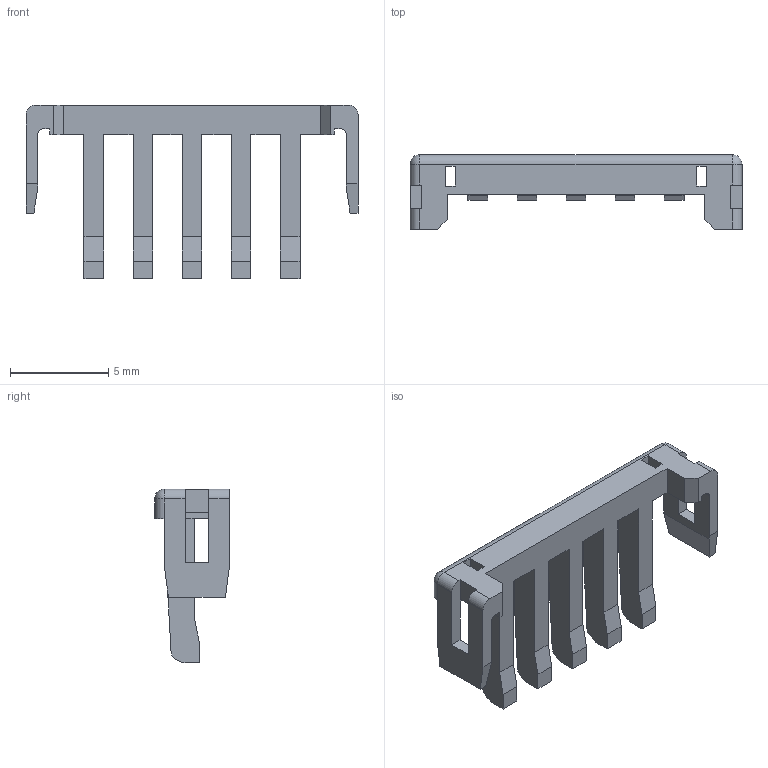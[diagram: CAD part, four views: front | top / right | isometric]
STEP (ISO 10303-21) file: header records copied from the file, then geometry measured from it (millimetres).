
FILE_DESCRIPTION((''),'2;1');
FILE_NAME('5008170505','2015-12-08T',('ME'),(''),'PRO/ENGINEER BY PARAMETRIC TECHNOLOGY CORPORATION, 2011490','PRO/ENGINEER BY PARAMETRIC TECHNOLOGY CORPORATION, 2011490','');
FILE_SCHEMA(('CONFIG_CONTROL_DESIGN'));
Length unit declared in the file: millimetre
Products named in the file (1): 5008170505
Bounding box: 16.9 x 3.8 x 8.85 mm (x, y, z)
Volume: 118.4 mm3; surface area: 384.4 mm2
Topology: 1 solids, 1 shells, 109 faces, 323 edges, 212 vertices
Faces by surface type: plane 86, cylinder 21, sphere 2
Entity records: 3657 total; most frequent: ORIENTED_EDGE 646, CARTESIAN_POINT 645, DIRECTION 585, EDGE_CURVE 323, VECTOR 281, LINE 281, VERTEX_POINT 212, AXIS2_PLACEMENT_3D 152
